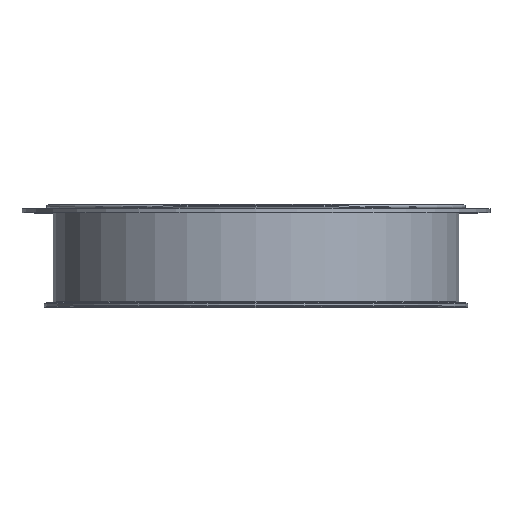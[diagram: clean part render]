
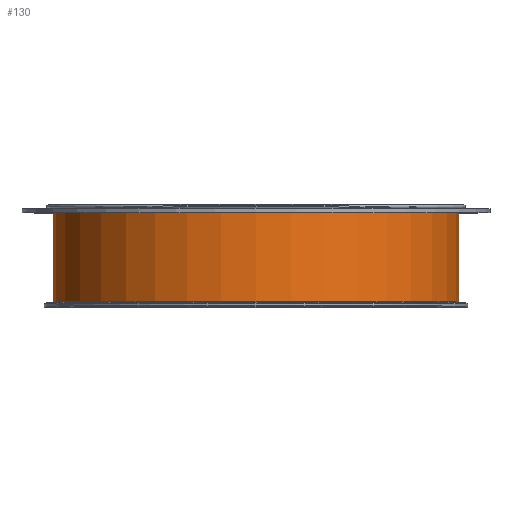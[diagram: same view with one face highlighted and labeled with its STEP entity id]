
A CAD part, top view. The second image highlights one B-rep face of the part: STEP entity #130.
In plain terms, the highlighted cylindrical face has radius 201 mm (diameter 402 mm), a full revolution.
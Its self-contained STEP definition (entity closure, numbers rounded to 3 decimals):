
#130=ADVANCED_FACE('',(#193,#194),#153,.T.);
#153=CYLINDRICAL_SURFACE('',#558,201.);
#193=FACE_BOUND('',#273,.T.);
#194=FACE_BOUND('',#274,.T.);
#273=EDGE_LOOP('',(#353));
#274=EDGE_LOOP('',(#354));
#353=ORIENTED_EDGE('',*,*,#454,.F.);
#354=ORIENTED_EDGE('',*,*,#462,.F.);
#414=VERTEX_POINT('',#772);
#422=VERTEX_POINT('',#793);
#454=EDGE_CURVE('',#414,#414,#494,.T.);
#462=EDGE_CURVE('',#422,#422,#502,.T.);
#494=CIRCLE('',#543,201.);
#502=CIRCLE('',#556,201.);
#543=AXIS2_PLACEMENT_3D('',#771,#634,#635);
#556=AXIS2_PLACEMENT_3D('',#792,#660,#661);
#558=AXIS2_PLACEMENT_3D('',#795,#664,#665);
#634=DIRECTION('',(0.,-1.,0.));
#635=DIRECTION('',(-1.,0.,0.));
#660=DIRECTION('',(0.,1.,0.));
#661=DIRECTION('',(1.,0.,0.));
#664=DIRECTION('',(0.,1.,0.));
#665=DIRECTION('',(1.,0.,0.));
#771=CARTESIAN_POINT('',(0.,5.17,0.));
#772=CARTESIAN_POINT('',(-201.,5.17,0.));
#792=CARTESIAN_POINT('',(0.,99.,0.));
#793=CARTESIAN_POINT('',(201.,99.,0.));
#795=CARTESIAN_POINT('',(0.,-192.076,0.));
